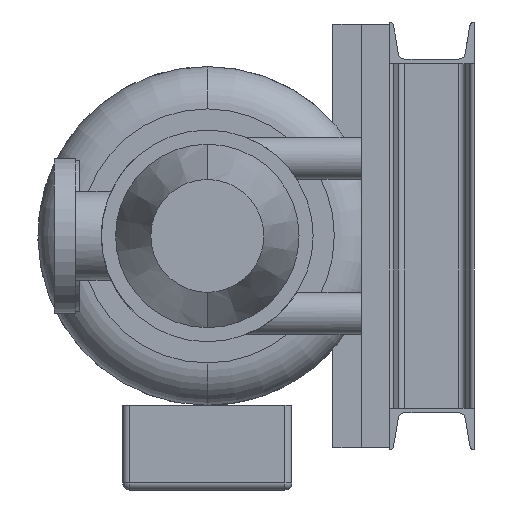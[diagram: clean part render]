
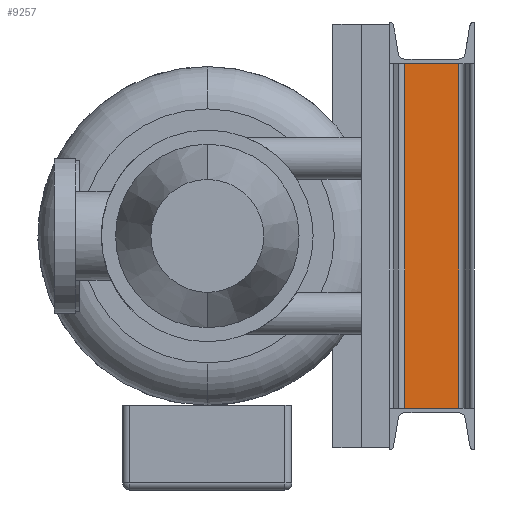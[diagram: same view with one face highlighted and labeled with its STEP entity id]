
A CAD part, left-side view. The second image highlights one B-rep face of the part: STEP entity #9257.
In plain terms, the highlighted planar face has unit normal (-1, 0, 0).
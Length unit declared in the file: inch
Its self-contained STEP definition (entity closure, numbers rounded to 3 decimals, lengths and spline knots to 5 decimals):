
#1095 = DIRECTION ( 'NONE',  ( 0., 1., 0. ) ) ;
#1309 = DIRECTION ( 'NONE',  ( -1., 0., 0. ) ) ;
#1898 = VERTEX_POINT ( 'NONE', #14877 ) ;
#2005 = DIRECTION ( 'NONE',  ( 0., 0., -1. ) ) ;
#2144 = VERTEX_POINT ( 'NONE', #15661 ) ;
#3163 = VECTOR ( 'NONE', #2005, 39.37008 ) ;
#3994 = CARTESIAN_POINT ( 'NONE',  ( -62.1504, 6.27151, 19.3984 ) ) ;
#4063 = VECTOR ( 'NONE', #11425, 39.37008 ) ;
#4472 = EDGE_CURVE ( 'NONE', #2144, #9532, #12709, .T. ) ;
#4953 = FACE_OUTER_BOUND ( 'NONE', #16506, .T. ) ;
#5041 = LINE ( 'NONE', #11246, #3163 ) ;
#5077 = VECTOR ( 'NONE', #5403, 39.37008 ) ;
#5403 = DIRECTION ( 'NONE',  ( 0., -1., 0. ) ) ;
#5544 = VECTOR ( 'NONE', #1095, 39.37008 ) ;
#6901 = CARTESIAN_POINT ( 'NONE',  ( -62.1504, 6.27151, 19.3984 ) ) ;
#7162 = ORIENTED_EDGE ( 'NONE', *, *, #4472, .F. ) ;
#8957 = ORIENTED_EDGE ( 'NONE', *, *, #10042, .F. ) ;
#9257 = ADVANCED_FACE ( 'NONE', ( #4953 ), #15683, .T. ) ;
#9532 = VERTEX_POINT ( 'NONE', #12113 ) ;
#10042 = EDGE_CURVE ( 'NONE', #9532, #1898, #5041, .T. ) ;
#10224 = LINE ( 'NONE', #11927, #5544 ) ;
#11246 = CARTESIAN_POINT ( 'NONE',  ( -62.1504, 1.40849, 19.3984 ) ) ;
#11425 = DIRECTION ( 'NONE',  ( 0., 0., -1. ) ) ;
#11927 = CARTESIAN_POINT ( 'NONE',  ( -62.1504, 6.27151, -15.63392 ) ) ;
#12113 = CARTESIAN_POINT ( 'NONE',  ( -62.1504, 1.40849, 15.63392 ) ) ;
#12709 = LINE ( 'NONE', #18183, #5077 ) ;
#13105 = ORIENTED_EDGE ( 'NONE', *, *, #16246, .T. ) ;
#14877 = CARTESIAN_POINT ( 'NONE',  ( -62.1504, 1.40849, -15.63392 ) ) ;
#15434 = VERTEX_POINT ( 'NONE', #16671 ) ;
#15661 = CARTESIAN_POINT ( 'NONE',  ( -62.1504, 6.27151, 15.63392 ) ) ;
#15683 = PLANE ( 'NONE',  #23459 ) ;
#16246 = EDGE_CURVE ( 'NONE', #2144, #15434, #20793, .T. ) ;
#16506 = EDGE_LOOP ( 'NONE', ( #16609, #8957, #7162, #13105 ) ) ;
#16609 = ORIENTED_EDGE ( 'NONE', *, *, #21328, .F. ) ;
#16671 = CARTESIAN_POINT ( 'NONE',  ( -62.1504, 6.27151, -15.63392 ) ) ;
#18183 = CARTESIAN_POINT ( 'NONE',  ( -62.1504, 6.27151, 15.63392 ) ) ;
#20793 = LINE ( 'NONE', #3994, #4063 ) ;
#21283 = DIRECTION ( 'NONE',  ( 0., 0., 1. ) ) ;
#21328 = EDGE_CURVE ( 'NONE', #1898, #15434, #10224, .T. ) ;
#23459 = AXIS2_PLACEMENT_3D ( 'NONE', #6901, #1309, #21283 ) ;
